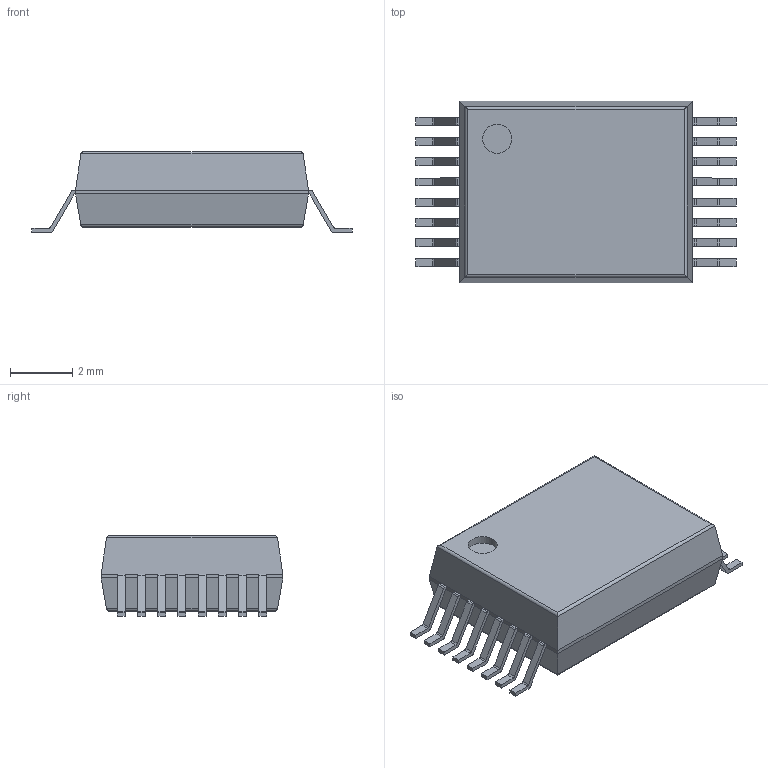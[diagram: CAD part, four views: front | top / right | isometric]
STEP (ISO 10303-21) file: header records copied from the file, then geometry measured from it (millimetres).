
FILE_DESCRIPTION(('FreeCAD Model'),'2;1');
FILE_NAME('/var/www/3D/0T/17249297.1.1.stp','2023-01-20T03:23:57',( 'Author'),(''),'Open CASCADE STEP processor 6.9','FreeCAD','Unknown' );
FILE_SCHEMA(('AUTOMOTIVE_DESIGN { 1 0 10303 214 1 1 1 1 }'));
Length unit declared in the file: millimetre
Products named in the file (3): ASSEMBLY; Body; PinsArrayLR
Assembly tree (2 placements, depth 2):
  ASSEMBLY
    Body
    PinsArrayLR
Bounding box: 10.3 x 5.85 x 2.6 mm (x, y, z)
Volume: 101.8 mm3; surface area: 168.1 mm2
Topology: 17 solids, 17 shells, 232 faces, 575 edges, 378 vertices
Faces by surface type: plane 175, cylinder 57
Full cylindrical faces by diameter (mm): 0.938 x1
Entity records: 14667 total; most frequent: CARTESIAN_POINT 2790, DIRECTION 2201, LINE 1469, VECTOR 1469, ORIENTED_EDGE 1150, PCURVE 1150, DEFINITIONAL_REPRESENTATION 1150, EDGE_CURVE 575
